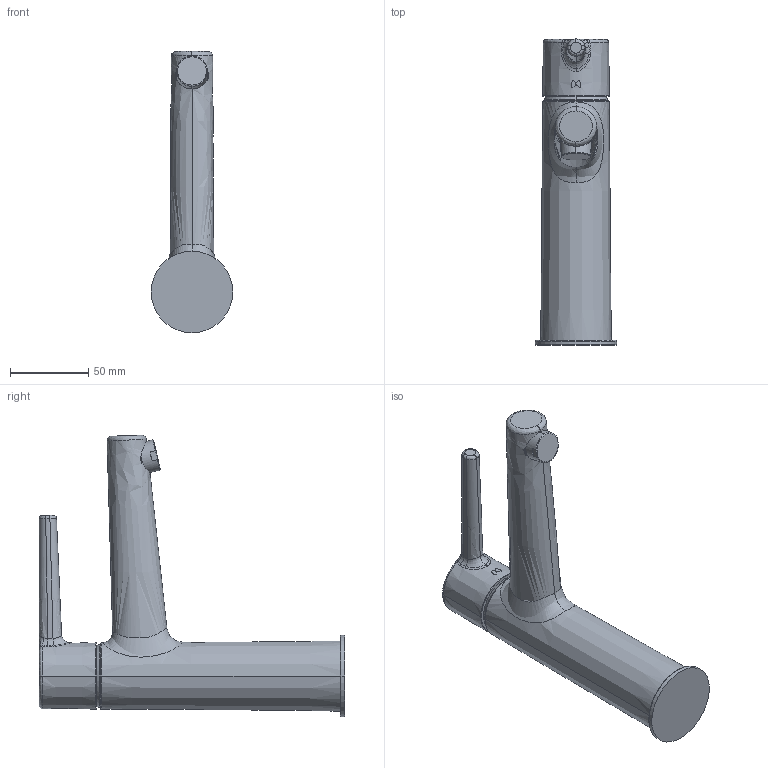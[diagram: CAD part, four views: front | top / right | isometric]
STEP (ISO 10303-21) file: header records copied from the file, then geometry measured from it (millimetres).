
FILE_DESCRIPTION((''),'2;1');
FILE_NAME('509435_M3','2020-04-30T13:28:16',('DB991'),(''),'CREO PARAMETRIC BY PTC INC, 2018500','CREO PARAMETRIC BY PTC INC, 2018500','');
FILE_SCHEMA(('CONFIG_CONTROL_DESIGN'));
Length unit declared in the file: millimetre
Products named in the file (1): 509435_M3
Bounding box: 52 x 195.2 x 179.67 mm (x, y, z)
Volume: 391195.7 mm3; surface area: 46629.6 mm2
Topology: 1 solids, 1 shells, 94 faces, 205 edges, 120 vertices
Faces by surface type: bspline 41, plane 15, cylinder 15, torus 12, cone 7, sphere 4
Entity records: 17792 total; most frequent: CARTESIAN_POINT 15990, ORIENTED_EDGE 406, DIRECTION 285, EDGE_CURVE 203, AXIS2_PLACEMENT_3D 127, VERTEX_POINT 120, EDGE_LOOP 103, B_SPLINE_CURVE_WITH_KNOTS 98
